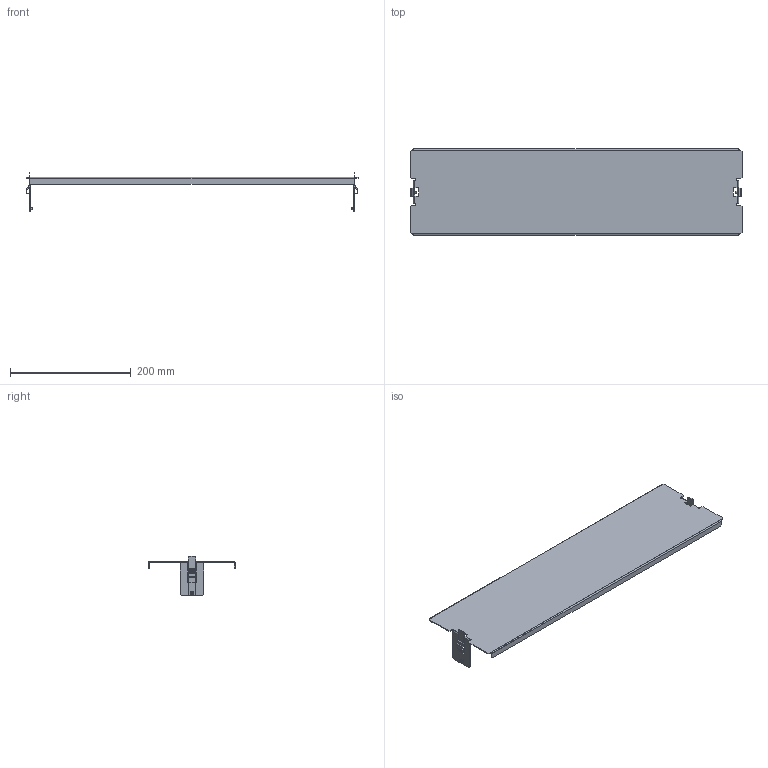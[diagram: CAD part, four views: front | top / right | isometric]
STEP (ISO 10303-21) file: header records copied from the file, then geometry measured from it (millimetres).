
FILE_DESCRIPTION (( 'STEP AP203' ), '1' );
FILE_NAME ('_102-5555 Rev4 20170221.STEP', '2017-02-21T18:39:32', ( '' ), ( '' ), 'SwSTEP 2.0', 'SolidWorks 2016', '' );
FILE_SCHEMA (( 'CONFIG_CONTROL_DESIGN' ));
Length unit declared in the file: inch
Products named in the file (4): 102-5554-001 Rev3_-3; 102-5554-003 Rev2_-1; _102-5555 Rev4 20170221; MS20426-AD4-3
Assembly tree (5 placements, depth 2):
  _102-5555 Rev4 20170221
    102-5554-001 Rev3_-3
    MS20426-AD4-3  x2
    102-5554-003 Rev2_-1  x2
Bounding box: 549.91 x 143.48 x 66.04 mm (x, y, z)
Volume: 131535.7 mm3; surface area: 189690.8 mm2
Topology: 5 solids, 5 shells, 246 faces, 564 edges, 324 vertices
Faces by surface type: plane 166, cylinder 64, cone 8, bspline 4, torus 4
Entity records: 5631 total; most frequent: CARTESIAN_POINT 1145, DIRECTION 846, ORIENTED_EDGE 824, EDGE_CURVE 412, VECTOR 302, LINE 302, AXIS2_PLACEMENT_3D 272, VERTEX_POINT 240
